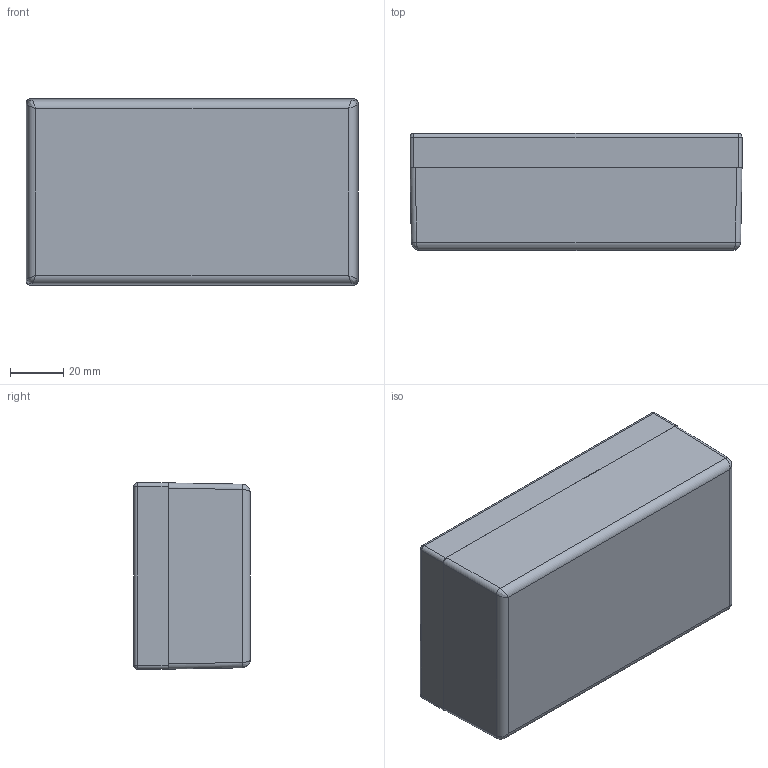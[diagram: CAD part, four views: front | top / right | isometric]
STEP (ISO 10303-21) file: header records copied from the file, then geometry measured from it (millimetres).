
FILE_DESCRIPTION (( 'STEP AP214' ), '1' );
FILE_NAME ('Conjunt PP19.STEP', '2021-02-26T08:32:21', ( 'aaa' ), ( '' ), 'SwSTEP 2.0', 'SolidWorks 2014', '' );
FILE_SCHEMA (( 'AUTOMOTIVE_DESIGN' ));
Length unit declared in the file: millimetre
Products named in the file (4): Tapa PP19; Cuerpo PP19; Conjunt PP19; Cargol 2,2x6,5 PP19
Assembly tree (6 placements, depth 2):
  Conjunt PP19
    Cuerpo PP19
    Tapa PP19
    Cargol 2,2x6,5 PP19  x4
Bounding box: 125.1 x 44 x 70.2 mm (x, y, z)
Volume: 83084.6 mm3; surface area: 72438.3 mm2
Topology: 6 solids, 6 shells, 406 faces, 888 edges, 524 vertices
Faces by surface type: cone 152, plane 134, cylinder 112, bspline 4, sphere 4
Entity records: 6942 total; most frequent: CARTESIAN_POINT 1306, DIRECTION 1246, ORIENTED_EDGE 1048, EDGE_CURVE 524, AXIS2_PLACEMENT_3D 485, VERTEX_POINT 329, EDGE_LOOP 287, VECTOR 276
